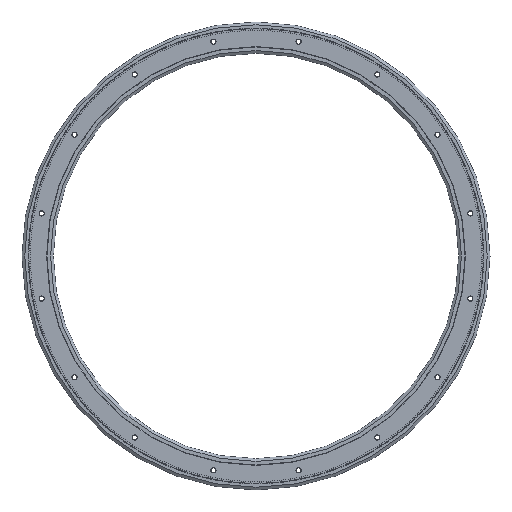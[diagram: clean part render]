
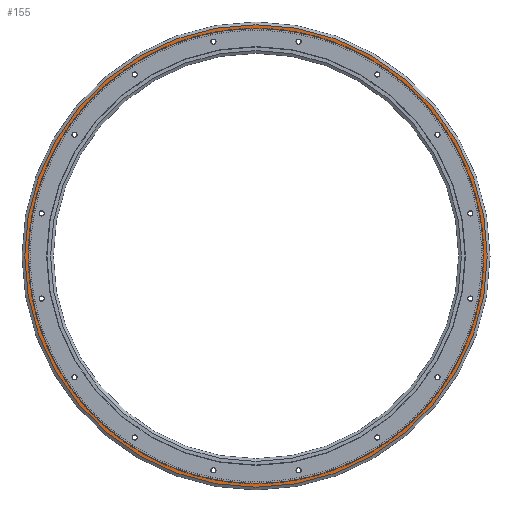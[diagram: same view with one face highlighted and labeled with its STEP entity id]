
A CAD part, front view. The second image highlights one B-rep face of the part: STEP entity #155.
In plain terms, the highlighted planar face has unit normal (0, -1, 0).
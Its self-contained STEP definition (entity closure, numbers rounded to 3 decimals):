
#155 = ADVANCED_FACE( '', ( #4234, #4235 ), #4236, .T. );
#4234 = FACE_OUTER_BOUND( '', #12132, .T. );
#4235 = FACE_BOUND( '', #12133, .T. );
#4236 = PLANE( '', #12134 );
#12132 = EDGE_LOOP( '', ( #22123 ) );
#12133 = EDGE_LOOP( '', ( #22124 ) );
#12134 = AXIS2_PLACEMENT_3D( '', #22125, #22126, #22127 );
#22123 = ORIENTED_EDGE( '', *, *, #53999, .T. );
#22124 = ORIENTED_EDGE( '', *, *, #54000, .F. );
#22125 = CARTESIAN_POINT( '', ( 316.4, 9.5, 0. ) );
#22126 = DIRECTION( '', ( 0., -1., 0. ) );
#22127 = DIRECTION( '', ( 0., 0., -1. ) );
#53999 = EDGE_CURVE( '', #66278, #66278, #66279, .T. );
#54000 = EDGE_CURVE( '', #66280, #66280, #66281, .T. );
#66278 = VERTEX_POINT( '', #84305 );
#66279 = CIRCLE( '', #84306, 324.086 );
#66280 = VERTEX_POINT( '', #84307 );
#66281 = CIRCLE( '', #84308, 316.4 );
#84305 = CARTESIAN_POINT( '', ( 0., 9.5, -324.086 ) );
#84306 = AXIS2_PLACEMENT_3D( '', #108693, #108694, #108695 );
#84307 = CARTESIAN_POINT( '', ( 0., 9.5, -316.4 ) );
#84308 = AXIS2_PLACEMENT_3D( '', #108696, #108697, #108698 );
#108693 = CARTESIAN_POINT( '', ( 0., 9.5, 0. ) );
#108694 = DIRECTION( '', ( 0., -1., 0. ) );
#108695 = DIRECTION( '', ( 0., 0., -1. ) );
#108696 = CARTESIAN_POINT( '', ( 0., 9.5, 0. ) );
#108697 = DIRECTION( '', ( 0., -1., 0. ) );
#108698 = DIRECTION( '', ( 0., 0., -1. ) );
